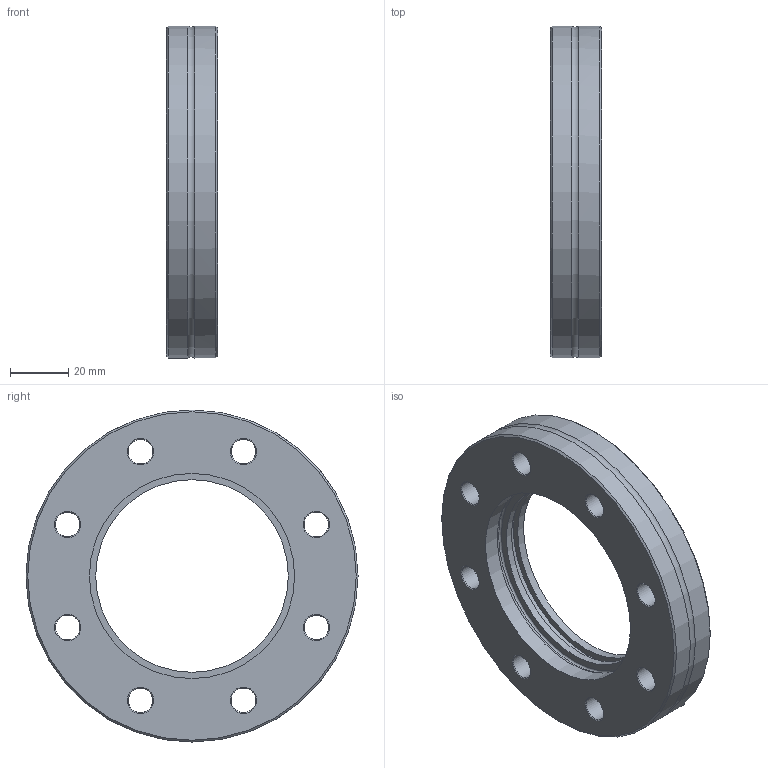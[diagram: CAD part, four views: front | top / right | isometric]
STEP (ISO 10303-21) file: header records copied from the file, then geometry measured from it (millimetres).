
FILE_DESCRIPTION((''),'2;1');
FILE_NAME('W:\13785_CF_Global_Fit_Umsetzung\037_Welding_Flange\M213-023.stp','2010-09-01T10:16:50',('KAA'),(''),'Autodesk Inventor 2011','Autodesk Inventor 2011','');
FILE_SCHEMA(('AUTOMOTIVE_DESIGN { 1 0 10303 214 1 1 1 1 }'));
Length unit declared in the file: millimetre
Products named in the file (1): 213-023
Bounding box: 17.5 x 113.7 x 113.7 mm (x, y, z)
Volume: 102133 mm3; surface area: 27252.4 mm2
Topology: 1 solids, 1 shells, 49 faces, 115 edges, 71 vertices
Faces by surface type: cone 23, cylinder 15, plane 6, torus 5
Full cylindrical faces by diameter (mm): 8.4 x8, 66 x2, 70.3 x2, 113.7 x2
Entity records: 1202 total; most frequent: DIRECTION 214, CARTESIAN_POINT 211, ORIENTED_EDGE 130, EDGE_LOOP 110, AXIS2_PLACEMENT_3D 106, EDGE_CURVE 65, VERTEX_POINT 61, FACE_BOUND 61
